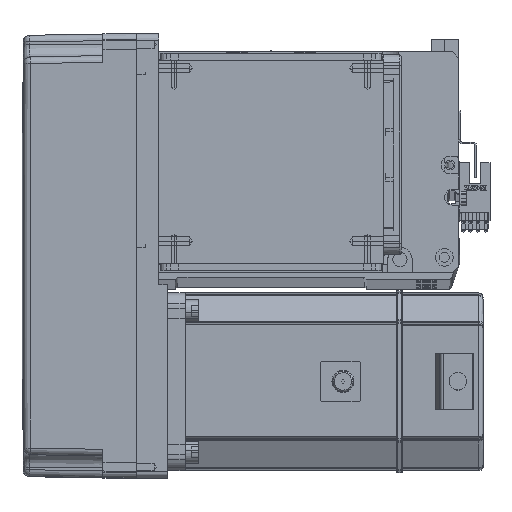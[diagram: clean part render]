
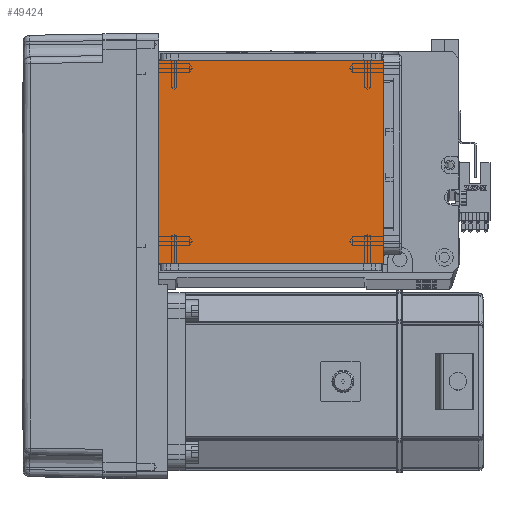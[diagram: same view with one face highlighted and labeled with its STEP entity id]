
A CAD part, top view. The second image highlights one B-rep face of the part: STEP entity #49424.
In plain terms, the highlighted planar face has unit normal (0, 0, 1).
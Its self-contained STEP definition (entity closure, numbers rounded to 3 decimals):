
#962 = CARTESIAN_POINT ( 'NONE',  ( 50.5, 111.5, 115. ) ) ;
#1649 = DIRECTION ( 'NONE',  ( 0., 1., 0. ) ) ;
#1744 = LINE ( 'NONE', #11278, #33901 ) ;
#3054 = VERTEX_POINT ( 'NONE', #13530 ) ;
#4868 = DIRECTION ( 'NONE',  ( 0., 0., 1. ) ) ;
#6722 = EDGE_CURVE ( 'NONE', #30814, #34081, #34145, .T. ) ;
#7248 = VERTEX_POINT ( 'NONE', #50708 ) ;
#9632 = PLANE ( 'NONE',  #33841 ) ;
#10725 = EDGE_CURVE ( 'NONE', #7248, #3054, #1744, .T. ) ;
#11278 = CARTESIAN_POINT ( 'NONE',  ( -70.004, 20., 115. ) ) ;
#13530 = CARTESIAN_POINT ( 'NONE',  ( -50.5, 20., 115. ) ) ;
#15485 = CARTESIAN_POINT ( 'NONE',  ( -50.5, 111.5, 115. ) ) ;
#19580 = EDGE_CURVE ( 'NONE', #7248, #34081, #30281, .T. ) ;
#23072 = LINE ( 'NONE', #51277, #35370 ) ;
#24027 = ORIENTED_EDGE ( 'NONE', *, *, #10725, .F. ) ;
#24108 = EDGE_CURVE ( 'NONE', #30814, #3054, #23072, .T. ) ;
#30281 = LINE ( 'NONE', #30536, #51800 ) ;
#30536 = CARTESIAN_POINT ( 'NONE',  ( 50.5, 122., 115. ) ) ;
#30670 = ORIENTED_EDGE ( 'NONE', *, *, #24108, .T. ) ;
#30814 = VERTEX_POINT ( 'NONE', #15485 ) ;
#32801 = FACE_OUTER_BOUND ( 'NONE', #58889, .T. ) ;
#33841 = AXIS2_PLACEMENT_3D ( 'NONE', #54325, #4868, #48756 ) ;
#33901 = VECTOR ( 'NONE', #45488, 1000. ) ;
#34081 = VERTEX_POINT ( 'NONE', #962 ) ;
#34145 = LINE ( 'NONE', #55498, #34887 ) ;
#34887 = VECTOR ( 'NONE', #35953, 1000. ) ;
#35370 = VECTOR ( 'NONE', #61767, 1000. ) ;
#35953 = DIRECTION ( 'NONE',  ( 1., 0., 0. ) ) ;
#36023 = ORIENTED_EDGE ( 'NONE', *, *, #19580, .T. ) ;
#41342 = ORIENTED_EDGE ( 'NONE', *, *, #6722, .F. ) ;
#45488 = DIRECTION ( 'NONE',  ( -1., 0., 0. ) ) ;
#48756 = DIRECTION ( 'NONE',  ( 1., 0., 0. ) ) ;
#49424 = ADVANCED_FACE ( 'NONE', ( #32801 ), #9632, .T. ) ;
#50708 = CARTESIAN_POINT ( 'NONE',  ( 50.5, 20., 115. ) ) ;
#51277 = CARTESIAN_POINT ( 'NONE',  ( -50.5, 122., 115. ) ) ;
#51800 = VECTOR ( 'NONE', #1649, 1000. ) ;
#54325 = CARTESIAN_POINT ( 'NONE',  ( 0., 0., 115. ) ) ;
#55498 = CARTESIAN_POINT ( 'NONE',  ( -70.004, 111.5, 115. ) ) ;
#58889 = EDGE_LOOP ( 'NONE', ( #41342, #30670, #24027, #36023 ) ) ;
#61767 = DIRECTION ( 'NONE',  ( 0., -1., 0. ) ) ;
